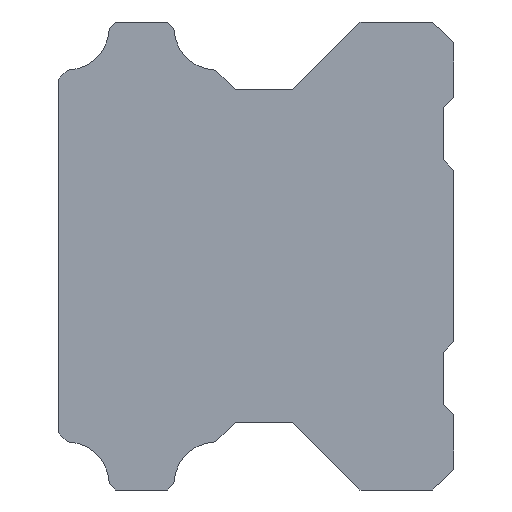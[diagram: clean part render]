
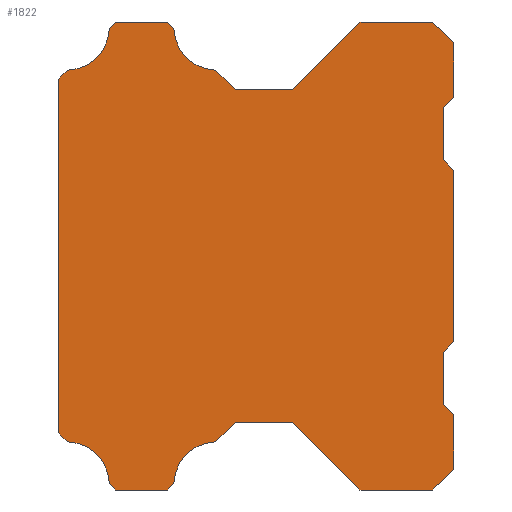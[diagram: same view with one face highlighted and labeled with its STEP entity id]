
A CAD part, left-side view. The second image highlights one B-rep face of the part: STEP entity #1822.
In plain terms, the highlighted planar face has unit normal (-1, 0, 0).
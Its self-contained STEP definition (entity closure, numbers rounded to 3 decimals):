
#111=CIRCLE('',#1969,4.13);
#113=CIRCLE('',#1975,4.13);
#144=CIRCLE('',#2010,4.13);
#146=CIRCLE('',#2016,4.13);
#424=ORIENTED_EDGE('',*,*,#630,.F.);
#425=ORIENTED_EDGE('',*,*,#782,.F.);
#426=ORIENTED_EDGE('',*,*,#779,.F.);
#427=ORIENTED_EDGE('',*,*,#776,.F.);
#428=ORIENTED_EDGE('',*,*,#773,.T.);
#429=ORIENTED_EDGE('',*,*,#770,.F.);
#430=ORIENTED_EDGE('',*,*,#767,.F.);
#431=ORIENTED_EDGE('',*,*,#764,.F.);
#432=ORIENTED_EDGE('',*,*,#761,.T.);
#433=ORIENTED_EDGE('',*,*,#758,.F.);
#434=ORIENTED_EDGE('',*,*,#755,.F.);
#435=ORIENTED_EDGE('',*,*,#723,.F.);
#436=ORIENTED_EDGE('',*,*,#720,.T.);
#437=ORIENTED_EDGE('',*,*,#717,.F.);
#438=ORIENTED_EDGE('',*,*,#714,.F.);
#439=ORIENTED_EDGE('',*,*,#711,.F.);
#440=ORIENTED_EDGE('',*,*,#708,.T.);
#441=ORIENTED_EDGE('',*,*,#705,.F.);
#442=ORIENTED_EDGE('',*,*,#702,.F.);
#443=ORIENTED_EDGE('',*,*,#699,.F.);
#444=ORIENTED_EDGE('',*,*,#696,.F.);
#445=ORIENTED_EDGE('',*,*,#693,.F.);
#446=ORIENTED_EDGE('',*,*,#690,.F.);
#447=ORIENTED_EDGE('',*,*,#687,.F.);
#448=ORIENTED_EDGE('',*,*,#684,.F.);
#449=ORIENTED_EDGE('',*,*,#681,.F.);
#450=ORIENTED_EDGE('',*,*,#678,.F.);
#451=ORIENTED_EDGE('',*,*,#646,.F.);
#452=ORIENTED_EDGE('',*,*,#643,.F.);
#453=ORIENTED_EDGE('',*,*,#640,.F.);
#454=ORIENTED_EDGE('',*,*,#637,.F.);
#455=ORIENTED_EDGE('',*,*,#634,.F.);
#630=EDGE_CURVE('',#842,#843,#1022,.T.);
#634=EDGE_CURVE('',#843,#846,#1026,.T.);
#637=EDGE_CURVE('',#846,#848,#1029,.T.);
#640=EDGE_CURVE('',#848,#850,#1032,.T.);
#643=EDGE_CURVE('',#850,#852,#1035,.T.);
#646=EDGE_CURVE('',#852,#854,#1038,.T.);
#678=EDGE_CURVE('',#854,#885,#1041,.T.);
#681=EDGE_CURVE('',#885,#887,#1044,.T.);
#684=EDGE_CURVE('',#887,#889,#1047,.T.);
#687=EDGE_CURVE('',#889,#891,#1050,.T.);
#690=EDGE_CURVE('',#891,#893,#1053,.T.);
#693=EDGE_CURVE('',#893,#895,#1056,.T.);
#696=EDGE_CURVE('',#895,#897,#1059,.T.);
#699=EDGE_CURVE('',#897,#899,#1062,.T.);
#702=EDGE_CURVE('',#899,#901,#1065,.T.);
#705=EDGE_CURVE('',#901,#903,#1068,.T.);
#708=EDGE_CURVE('',#905,#903,#111,.T.);
#711=EDGE_CURVE('',#905,#907,#1072,.T.);
#714=EDGE_CURVE('',#907,#909,#1075,.T.);
#717=EDGE_CURVE('',#909,#911,#1078,.T.);
#720=EDGE_CURVE('',#913,#911,#113,.T.);
#723=EDGE_CURVE('',#913,#915,#1082,.T.);
#755=EDGE_CURVE('',#915,#946,#1085,.T.);
#758=EDGE_CURVE('',#946,#948,#1088,.T.);
#761=EDGE_CURVE('',#950,#948,#144,.T.);
#764=EDGE_CURVE('',#950,#952,#1092,.T.);
#767=EDGE_CURVE('',#952,#954,#1095,.T.);
#770=EDGE_CURVE('',#954,#956,#1098,.T.);
#773=EDGE_CURVE('',#958,#956,#146,.T.);
#776=EDGE_CURVE('',#958,#960,#1102,.T.);
#779=EDGE_CURVE('',#960,#962,#1105,.T.);
#782=EDGE_CURVE('',#962,#842,#1108,.T.);
#842=VERTEX_POINT('',#2751);
#843=VERTEX_POINT('',#2752);
#846=VERTEX_POINT('',#2760);
#848=VERTEX_POINT('',#2766);
#850=VERTEX_POINT('',#2772);
#852=VERTEX_POINT('',#2778);
#854=VERTEX_POINT('',#2784);
#885=VERTEX_POINT('',#2848);
#887=VERTEX_POINT('',#2854);
#889=VERTEX_POINT('',#2860);
#891=VERTEX_POINT('',#2866);
#893=VERTEX_POINT('',#2872);
#895=VERTEX_POINT('',#2878);
#897=VERTEX_POINT('',#2884);
#899=VERTEX_POINT('',#2890);
#901=VERTEX_POINT('',#2896);
#903=VERTEX_POINT('',#2902);
#905=VERTEX_POINT('',#2908);
#907=VERTEX_POINT('',#2914);
#909=VERTEX_POINT('',#2920);
#911=VERTEX_POINT('',#2926);
#913=VERTEX_POINT('',#2932);
#915=VERTEX_POINT('',#2938);
#946=VERTEX_POINT('',#3002);
#948=VERTEX_POINT('',#3008);
#950=VERTEX_POINT('',#3014);
#952=VERTEX_POINT('',#3020);
#954=VERTEX_POINT('',#3026);
#956=VERTEX_POINT('',#3032);
#958=VERTEX_POINT('',#3038);
#960=VERTEX_POINT('',#3044);
#962=VERTEX_POINT('',#3050);
#1022=LINE('',#2750,#1110);
#1026=LINE('',#2759,#1114);
#1029=LINE('',#2765,#1117);
#1032=LINE('',#2771,#1120);
#1035=LINE('',#2777,#1123);
#1038=LINE('',#2783,#1126);
#1041=LINE('',#2847,#1129);
#1044=LINE('',#2853,#1132);
#1047=LINE('',#2859,#1135);
#1050=LINE('',#2865,#1138);
#1053=LINE('',#2871,#1141);
#1056=LINE('',#2877,#1144);
#1059=LINE('',#2883,#1147);
#1062=LINE('',#2889,#1150);
#1065=LINE('',#2895,#1153);
#1068=LINE('',#2901,#1156);
#1072=LINE('',#2913,#1160);
#1075=LINE('',#2919,#1163);
#1078=LINE('',#2925,#1166);
#1082=LINE('',#2937,#1170);
#1085=LINE('',#3001,#1173);
#1088=LINE('',#3007,#1176);
#1092=LINE('',#3019,#1180);
#1095=LINE('',#3025,#1183);
#1098=LINE('',#3031,#1186);
#1102=LINE('',#3043,#1190);
#1105=LINE('',#3049,#1193);
#1108=LINE('',#3055,#1196);
#1110=VECTOR('',#2172,1000.);
#1114=VECTOR('',#2178,1000.);
#1117=VECTOR('',#2183,1000.);
#1120=VECTOR('',#2188,1000.);
#1123=VECTOR('',#2193,1000.);
#1126=VECTOR('',#2198,1000.);
#1129=VECTOR('',#2261,1000.);
#1132=VECTOR('',#2266,1000.);
#1135=VECTOR('',#2271,1000.);
#1138=VECTOR('',#2276,1000.);
#1141=VECTOR('',#2281,1000.);
#1144=VECTOR('',#2286,1000.);
#1147=VECTOR('',#2291,1000.);
#1150=VECTOR('',#2296,1000.);
#1153=VECTOR('',#2301,1000.);
#1156=VECTOR('',#2306,1000.);
#1160=VECTOR('',#2318,1000.);
#1163=VECTOR('',#2323,1000.);
#1166=VECTOR('',#2328,1000.);
#1170=VECTOR('',#2340,1000.);
#1173=VECTOR('',#2403,1000.);
#1176=VECTOR('',#2408,1000.);
#1180=VECTOR('',#2420,1000.);
#1183=VECTOR('',#2425,1000.);
#1186=VECTOR('',#2430,1000.);
#1190=VECTOR('',#2442,1000.);
#1193=VECTOR('',#2447,1000.);
#1196=VECTOR('',#2452,1000.);
#1289=EDGE_LOOP('',(#424,#425,#426,#427,#428,#429,#430,#431,#432,#433,#434,
#435,#436,#437,#438,#439,#440,#441,#442,#443,#444,#445,#446,#447,#448,#449,
#450,#451,#452,#453,#454,#455));
#1555=FACE_BOUND('',#1289,.T.);
#1759=PLANE('',#2022);
#1822=ADVANCED_FACE('',(#1555),#1759,.F.);
#1969=AXIS2_PLACEMENT_3D('',#2907,#2311,#2312);
#1975=AXIS2_PLACEMENT_3D('',#2931,#2333,#2334);
#2010=AXIS2_PLACEMENT_3D('',#3013,#2413,#2414);
#2016=AXIS2_PLACEMENT_3D('',#3037,#2435,#2436);
#2022=AXIS2_PLACEMENT_3D('',#3058,#2456,#2457);
#2172=DIRECTION('',(0.,-1.,0.));
#2178=DIRECTION('',(0.,-0.707,-0.707));
#2183=DIRECTION('',(0.,0.,-1.));
#2188=DIRECTION('',(0.,0.707,-0.707));
#2193=DIRECTION('',(0.,0.,-1.));
#2198=DIRECTION('',(0.,-0.707,-0.707));
#2261=DIRECTION('',(0.,0.,-1.));
#2266=DIRECTION('',(0.,0.707,-0.707));
#2271=DIRECTION('',(0.,0.,-1.));
#2276=DIRECTION('',(0.,-0.707,-0.707));
#2281=DIRECTION('',(0.,0.,-1.));
#2286=DIRECTION('',(0.,0.707,-0.707));
#2291=DIRECTION('',(0.,1.,0.));
#2296=DIRECTION('',(0.,0.707,0.707));
#2301=DIRECTION('',(0.,1.,0.));
#2306=DIRECTION('',(0.,0.707,-0.707));
#2311=DIRECTION('',(1.,0.,0.));
#2312=DIRECTION('',(0.,0.,-1.));
#2318=DIRECTION('',(0.,0.707,-0.707));
#2323=DIRECTION('',(0.,1.,0.));
#2328=DIRECTION('',(0.,0.707,0.707));
#2333=DIRECTION('',(1.,0.,0.));
#2334=DIRECTION('',(0.,0.,-1.));
#2340=DIRECTION('',(0.,0.707,0.707));
#2403=DIRECTION('',(0.,0.,1.));
#2408=DIRECTION('',(0.,-0.707,0.707));
#2413=DIRECTION('',(1.,0.,0.));
#2414=DIRECTION('',(0.,0.,-1.));
#2420=DIRECTION('',(0.,-0.707,0.707));
#2425=DIRECTION('',(0.,-1.,0.));
#2430=DIRECTION('',(0.,-0.707,-0.707));
#2435=DIRECTION('',(1.,0.,0.));
#2436=DIRECTION('',(0.,0.,-1.));
#2442=DIRECTION('',(0.,-0.707,-0.707));
#2447=DIRECTION('',(0.,-1.,0.));
#2452=DIRECTION('',(0.,-0.707,0.707));
#2456=DIRECTION('',(1.,0.,0.));
#2457=DIRECTION('',(0.,0.,-1.));
#2750=CARTESIAN_POINT('',(-30.,9.001,22.5));
#2751=CARTESIAN_POINT('',(-30.,9.001,22.5));
#2752=CARTESIAN_POINT('',(-30.,2.,22.5));
#2759=CARTESIAN_POINT('',(-30.,2.,22.5));
#2760=CARTESIAN_POINT('',(-30.,0.,20.5));
#2765=CARTESIAN_POINT('',(-30.,0.,20.5));
#2766=CARTESIAN_POINT('',(-30.,0.,15.25));
#2771=CARTESIAN_POINT('',(-30.,0.,15.25));
#2772=CARTESIAN_POINT('',(-30.,1.,14.25));
#2777=CARTESIAN_POINT('',(-30.,1.,14.25));
#2778=CARTESIAN_POINT('',(-30.,1.,9.25));
#2783=CARTESIAN_POINT('',(-30.,1.,9.25));
#2784=CARTESIAN_POINT('',(-30.,0.,8.25));
#2847=CARTESIAN_POINT('',(-30.,0.,8.25));
#2848=CARTESIAN_POINT('',(-30.,0.,-8.25));
#2853=CARTESIAN_POINT('',(-30.,0.,-8.25));
#2854=CARTESIAN_POINT('',(-30.,1.,-9.25));
#2859=CARTESIAN_POINT('',(-30.,1.,-9.25));
#2860=CARTESIAN_POINT('',(-30.,1.,-14.25));
#2865=CARTESIAN_POINT('',(-30.,1.,-14.25));
#2866=CARTESIAN_POINT('',(-30.,0.,-15.25));
#2871=CARTESIAN_POINT('',(-30.,0.,-15.25));
#2872=CARTESIAN_POINT('',(-30.,0.,-20.5));
#2877=CARTESIAN_POINT('',(-30.,0.,-20.5));
#2878=CARTESIAN_POINT('',(-30.,2.,-22.5));
#2883=CARTESIAN_POINT('',(-30.,2.,-22.5));
#2884=CARTESIAN_POINT('',(-30.,9.001,-22.5));
#2889=CARTESIAN_POINT('',(-30.,9.001,-22.5));
#2890=CARTESIAN_POINT('',(-30.,15.501,-16.));
#2895=CARTESIAN_POINT('',(-30.,15.501,-16.));
#2896=CARTESIAN_POINT('',(-30.,20.998,-16.));
#2901=CARTESIAN_POINT('',(-30.,20.998,-16.));
#2902=CARTESIAN_POINT('',(-30.,22.857,-17.86));
#2907=CARTESIAN_POINT('',(-30.,22.779,-21.989));
#2908=CARTESIAN_POINT('',(-30.,26.908,-21.91));
#2913=CARTESIAN_POINT('',(-30.,26.908,-21.91));
#2914=CARTESIAN_POINT('',(-30.,27.498,-22.5));
#2919=CARTESIAN_POINT('',(-30.,27.498,-22.5));
#2920=CARTESIAN_POINT('',(-30.,32.501,-22.5));
#2925=CARTESIAN_POINT('',(-30.,32.501,-22.5));
#2926=CARTESIAN_POINT('',(-30.,33.093,-21.908));
#2931=CARTESIAN_POINT('',(-30.,37.222,-21.989));
#2932=CARTESIAN_POINT('',(-30.,37.141,-17.86));
#2937=CARTESIAN_POINT('',(-30.,37.141,-17.86));
#2938=CARTESIAN_POINT('',(-30.,38.,-17.001));
#3001=CARTESIAN_POINT('',(-30.,38.,-17.001));
#3002=CARTESIAN_POINT('',(-30.,38.,17.001));
#3007=CARTESIAN_POINT('',(-30.,38.,17.001));
#3008=CARTESIAN_POINT('',(-30.,37.141,17.86));
#3013=CARTESIAN_POINT('',(-30.,37.222,21.989));
#3014=CARTESIAN_POINT('',(-30.,33.093,21.908));
#3019=CARTESIAN_POINT('',(-30.,33.093,21.908));
#3020=CARTESIAN_POINT('',(-30.,32.501,22.5));
#3025=CARTESIAN_POINT('',(-30.,32.501,22.5));
#3026=CARTESIAN_POINT('',(-30.,27.498,22.5));
#3031=CARTESIAN_POINT('',(-30.,27.498,22.5));
#3032=CARTESIAN_POINT('',(-30.,26.908,21.91));
#3037=CARTESIAN_POINT('',(-30.,22.779,21.989));
#3038=CARTESIAN_POINT('',(-30.,22.857,17.86));
#3043=CARTESIAN_POINT('',(-30.,22.857,17.86));
#3044=CARTESIAN_POINT('',(-30.,20.998,16.));
#3049=CARTESIAN_POINT('',(-30.,20.998,16.));
#3050=CARTESIAN_POINT('',(-30.,15.501,16.));
#3055=CARTESIAN_POINT('',(-30.,15.501,16.));
#3058=CARTESIAN_POINT('',(-30.,22.779,-21.989));
